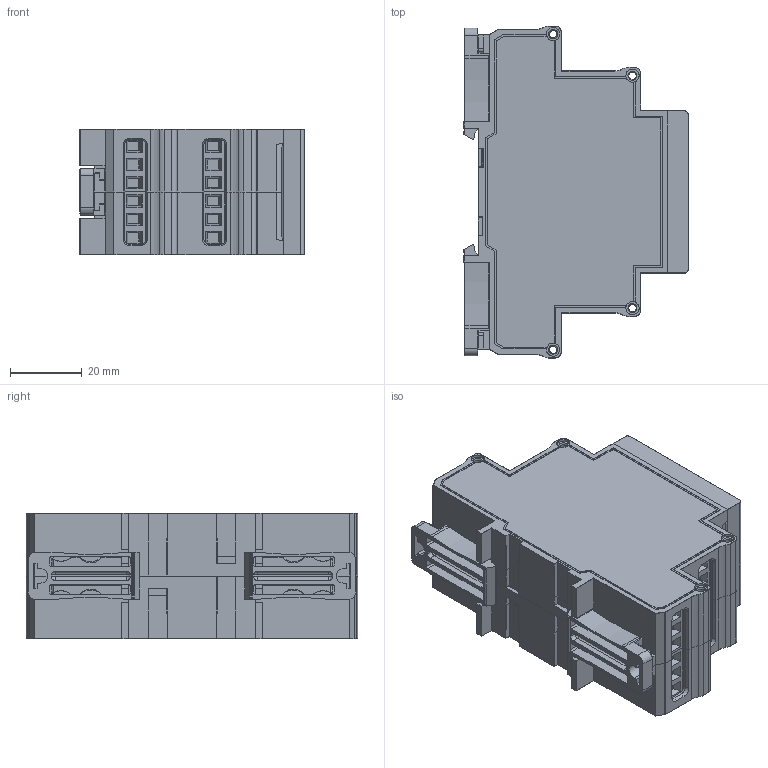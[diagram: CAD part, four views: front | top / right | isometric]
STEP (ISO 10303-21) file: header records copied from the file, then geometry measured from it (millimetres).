
FILE_DESCRIPTION(('STEP AP242'), '1');
FILE_NAME('ﾑ碚濱ﾌﾐﾏ-ﾌ7', '', ('UNSPECIFIED'), ('UNSPECIFIED'), 'C3D Converter', 'C3D Toolkit', '');
FILE_SCHEMA(('AP242_MANAGED_MODEL_BASED_3D_ENGINEERING_MIM_LF { 1 0 10303 442 1 1 4 }'));
Length unit declared in the file: millimetre
Products named in the file (11): Case_UC1-2sR-2024_SimpleModel_17mm; Case13-18-23mm_2step_Lock_v01a_Build20140909_1552; DG128-5.08_Configurable_5.08x3; Case_UC1-2sR-2025_Face_FR.FP.0000082
Assembly tree (19 placements, depth 2):
  (unnamed)
    Case_UC1-2sR-2024_SimpleModel_17mm  x2
    Case13-18-23mm_2step_Lock_v01a_Build20140909_1552  x2
    DG128-5.08_Configurable_5.08x3  x8
    Case_UC1-2sR-2025_Face_FR.FP.0000082
    (unnamed)
    (unnamed)
    (unnamed)
    (unnamed)
    (unnamed)
    (unnamed)
Bounding box: 62.53 x 92.4 x 35 mm (x, y, z)
Volume: 41806.9 mm3; surface area: 57551 mm2
Topology: 63 solids, 63 shells, 5943 faces, 16352 edges, 10644 vertices
Faces by surface type: plane 4167, extrusion 1167, cylinder 429, torus 96, cone 40, sphere 40, bspline 4
Full cylindrical faces by diameter (mm): 1.238 x24, 2.1 x8, 2.3 x10, 3.7 x8, 3.9 x24, 4.5 x1
Entity records: 180595 total; most frequent: CARTESIAN_POINT 36387, ORIENTED_EDGE 24476, DIRECTION 17921, EDGE_CURVE 12238, VECTOR 10547, LINE 9380, VERTEX_POINT 8104, EDGE_LOOP 4526
